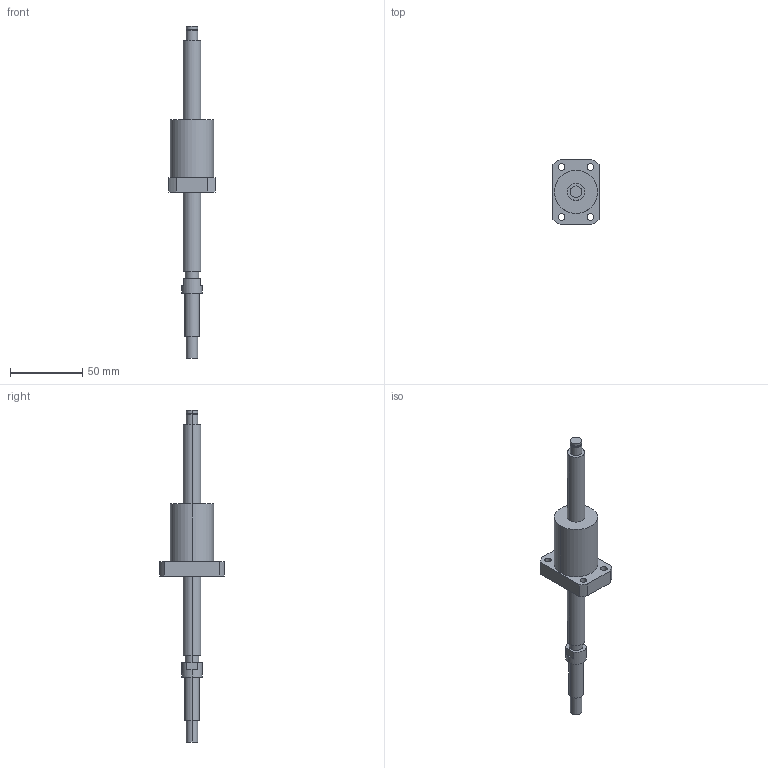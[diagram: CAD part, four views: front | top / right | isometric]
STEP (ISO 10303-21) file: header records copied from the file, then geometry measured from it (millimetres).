
FILE_DESCRIPTION((''),'2;1');
FILE_NAME('R12-10B1-FSW-160-230','2008-03-28T',('mahdi'),(''),'PRO/ENGINEER BY PARAMETRIC TECHNOLOGY CORPORATION, 2005070','PRO/ENGINEER BY PARAMETRIC TECHNOLOGY CORPORATION, 2005070','');
FILE_SCHEMA(('CONFIG_CONTROL_DESIGN'));
Length unit declared in the file: millimetre
Products named in the file (1): R12-10B1-FSW-160-230
Bounding box: 32 x 45 x 230 mm (x, y, z)
Volume: 59076.6 mm3; surface area: 15128.5 mm2
Topology: 1 solids, 1 shells, 64 faces, 144 edges, 96 vertices
Faces by surface type: cylinder 40, plane 24
Entity records: 1886 total; most frequent: DIRECTION 356, CARTESIAN_POINT 304, ORIENTED_EDGE 288, AXIS2_PLACEMENT_3D 148, EDGE_CURVE 144, VERTEX_POINT 96, EDGE_LOOP 86, CIRCLE 84
